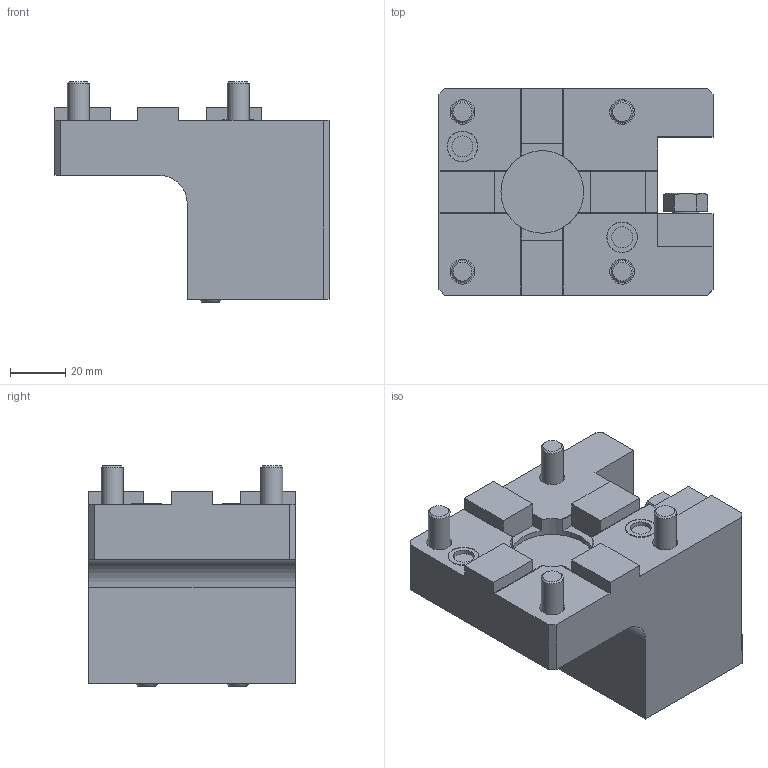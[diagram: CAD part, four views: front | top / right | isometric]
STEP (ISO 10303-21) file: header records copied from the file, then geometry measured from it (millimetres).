
FILE_DESCRIPTION(/* description */ (''),/* implementation_level */ '2;1');
FILE_NAME(/* name */ '197935-UNI',/* time_stamp */ '2021-12-06T10:41:08+01:00',/* author */ (''),/* organization */ (''),/* preprocessor_version */ 'ST-DEVELOPER v16.5',/* originating_system */ 'HiCAD 2017 2201.0 Build 268',/* authorisation */ '');
FILE_SCHEMA (('AUTOMOTIVE_DESIGN { 1 0 10303 214 1 1 1 1 }'));
Length unit declared in the file: millimetre
Products named in the file (6): Root; Teil; Leeres Teil; ROTATIONSTEIL_0_10*
Assembly tree (5 placements, depth 3):
  Root
    Teil
      Leeres Teil
      ROTATIONSTEIL_0_10*
      Leeres Teil
      ROTATIONSTEIL_0_10*
Bounding box: 99.5 x 75 x 80 mm (x, y, z)
Volume: 287501.5 mm3; surface area: 49722.4 mm2
Topology: 1 solids, 1 shells, 204 faces, 484 edges, 312 vertices
Faces by surface type: plane 160, cylinder 28, cone 10, torus 4, sphere 2
Full cylindrical faces by diameter (mm): 5 x2, 7.65 x2, 8 x4, 9 x4, 9.6 x2, 11.01 x2, 11.1 x2, 13 x4, 15 x4, 30 x1
Entity records: 9760 total; most frequent: DIRECTION 977, CARTESIAN_POINT 929, PRESENTATION_STYLE_ASSIGNMENT 841, COLOUR_RGB 841, DRAUGHTING_PRE_DEFINED_CURVE_FONT 840, CURVE_STYLE 840, OVER_RIDING_STYLED_ITEM 840, ORIENTED_EDGE 840
